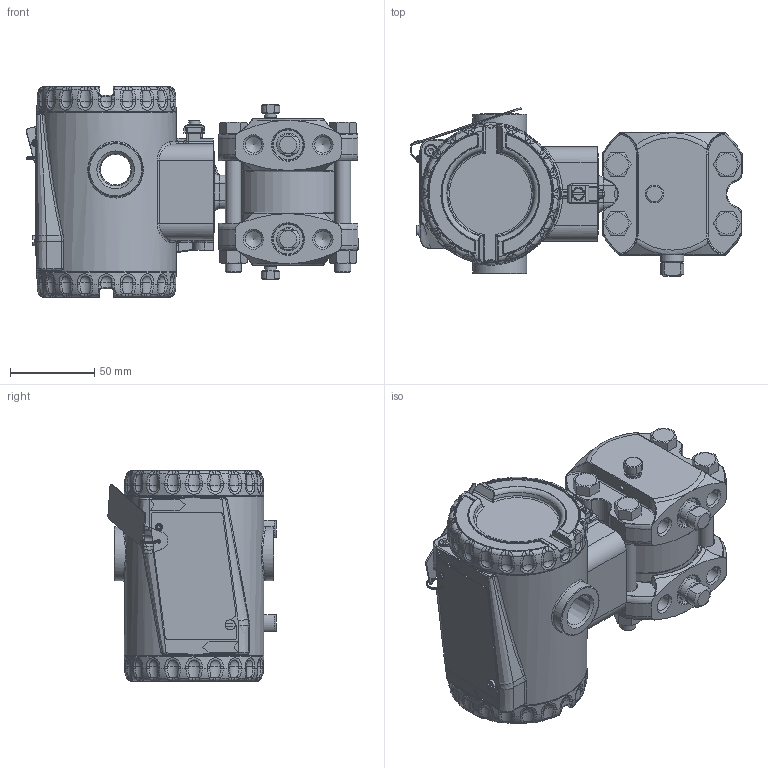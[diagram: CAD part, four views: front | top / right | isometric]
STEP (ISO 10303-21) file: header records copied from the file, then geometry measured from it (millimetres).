
FILE_DESCRIPTION(/* description */ (''),/* implementation_level */ '2;1');
FILE_NAME(/* name */ 'F:\Area\Desenvolvimento_2\Projects\Sensor\projetos\LD400-3d\dimensionais 3D clientes\LD400D4 1-4NPT monel purga acima.stp',/* time_stamp */ '2023-02-02T10:46:12-03:00',/* author */ ('inventor02'),/* organization */ (''),/* preprocessor_version */ 'ST-DEVELOPER v17',/* originating_system */ 'Autodesk Inventor 2019',/* authorisation */ '');
FILE_SCHEMA (('CONFIG_CONTROL_DESIGN'));
Products named in the file (29): LD400D4 1-4NPT monel purga acima; Carcaça 400 com tampas e plaqueta sem letras; 101-D-0845-05 carcaça LD400 sem letras; 101-B-3614-03-tampa 400 sem letras; Tampa visor 400 montada sem letras; 101-B-3612-05 tampa visor 400 sem letras; 101-A-6107; oring 2034; 00034775-0; WHW_250; DIN 915 - M6 x 10; Chapa aterramento externo; 201-A-1771-02 inserto terra recartilhado; AS 1969 - ST4,2; ISO 1207 - M4 x 8; ANSI B18.3.1M - M4x0,7 x 8; Subconjunto plaqueta 400; plaqueta 400 em branco; Parafuso da Plaqueta; Rebite da Plaqueta; 096-A-0169-03; 101-A-0502-01; diferencial FX4 monel purga acima; involucro fx4 apos a usinagem final; bujao 1-4NPT; 081-C-0500-10 monel barra 7-16 purga M8; Paraf. 3-8 x 16 UNC; Porca 3-8 x 16 UNC; Sangria
Assembly tree (38 placements, depth 4):
  LD400D4 1-4NPT monel purga acima
    Carcaça 400 com tampas e plaqueta sem letras
      101-D-0845-05 carcaça LD400 sem letras
      101-B-3614-03-tampa 400 sem letras
      Tampa visor 400 montada sem letras
        101-B-3612-05 tampa visor 400 sem letras
        101-A-6107
        oring 2034
        00034775-0
        WHW_250
      DIN 915 - M6 x 10
      Chapa aterramento externo
      201-A-1771-02 inserto terra recartilhado
      AS 1969 - ST4,2
      ISO 1207 - M4 x 8
      ANSI B18.3.1M - M4x0,7 x 8  x2
      Subconjunto plaqueta 400
        plaqueta 400 em branco
        Parafuso da Plaqueta
        Rebite da Plaqueta
        096-A-0169-03
        101-A-0502-01
    diferencial FX4 monel purga acima
      involucro fx4 apos a usinagem final
      bujao 1-4NPT  x2
      081-C-0500-10 monel barra 7-16 purga M8  x2
      Paraf. 3-8 x 16 UNC  x4
      Porca 3-8 x 16 UNC  x4
      Sangria  x2
Bounding box: 197.25 x 99.89 x 125 mm (x, y, z)
Volume: 666861.5 mm3; surface area: 240793.7 mm2
Topology: 34 solids, 34 shells, 2301 faces, 5675 edges, 3435 vertices
Faces by surface type: plane 611, bspline 529, cylinder 507, torus 354, cone 247, sphere 53
Full cylindrical faces by diameter (mm): 2 x2, 2.1 x1, 2.2 x1, 2.459 x3, 2.7 x1, 3 x5, 3.242 x3, 3.571 x1, 4 x4, 4.3 x2, 4.4 x1, 4.917 x1, 5 x4, 5.5 x2, 6 x2, 6.1 x2, 6.2 x1, 6.647 x2, 7 x4, 7.6 x2, 7.798 x4, 8 x2, 9.525 x4, 9.728 x8, 10.5 x8, 10.719 x4, 12 x2, 13.8 x2, 14 x1, 18.3 x2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
Entity records: 75819 total; most frequent: CARTESIAN_POINT 30502, ORIENTED_EDGE 9508, DIRECTION 9047, EDGE_CURVE 4754, AXIS2_PLACEMENT_3D 3809, VERTEX_POINT 2881, CIRCLE 2191, EDGE_LOOP 2049
